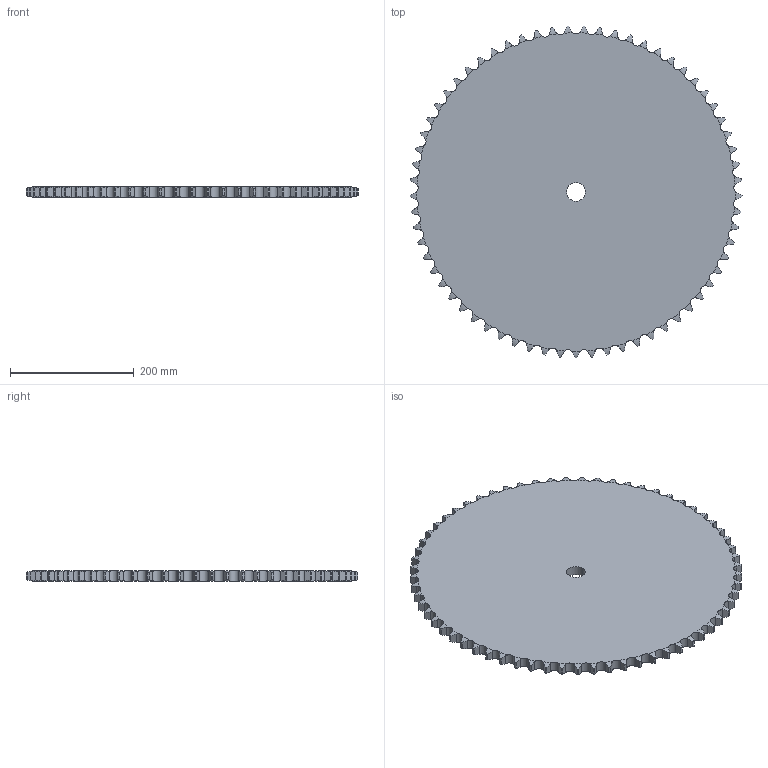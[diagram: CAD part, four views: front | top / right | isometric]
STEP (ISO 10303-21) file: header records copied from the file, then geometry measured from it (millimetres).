
FILE_DESCRIPTION((''),'2;1');
FILE_NAME('500-501-0065_PRT','2021-02-12T',('Brieden'),('Brieden'),'PRO/ENGINEER BY PARAMETRIC TECHNOLOGY CORPORATION, 2010160','PRO/ENGINEER BY PARAMETRIC TECHNOLOGY CORPORATION, 2010160','');
FILE_SCHEMA(('AUTOMOTIVE_DESIGN { 1 0 10303 214 1 1 1 1 }'));
Length unit declared in the file: millimetre
Products named in the file (1): 500-501-0065_PRT
Bounding box: 535.79 x 535.63 x 16.2 mm (x, y, z)
Volume: 3419816 mm3; surface area: 462906.7 mm2
Topology: 1 solids, 1 shells, 394 faces, 1176 edges, 784 vertices
Faces by surface type: cylinder 262, torus 130, plane 2
Entity records: 19832 total; most frequent: CARTESIAN_POINT 6273, ORIENTED_EDGE 2352, DIRECTION 1838, PRESENTATION_STYLE_ASSIGNMENT 1177, STYLED_ITEM 1177, CURVE_STYLE 1176, EDGE_CURVE 1176, AXIS2_PLACEMENT_3D 788
